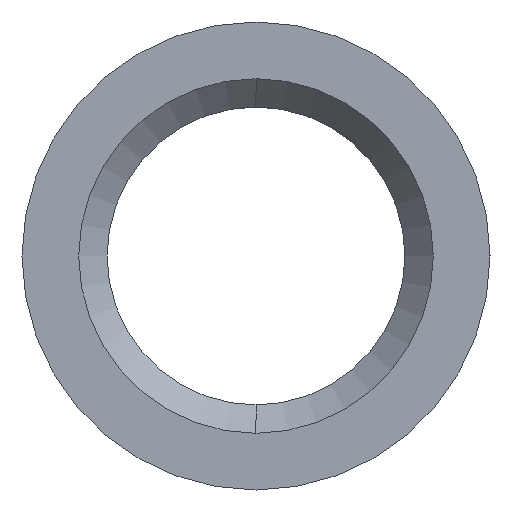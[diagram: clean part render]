
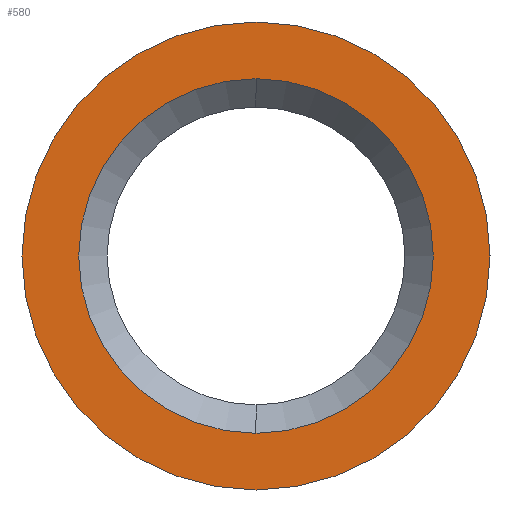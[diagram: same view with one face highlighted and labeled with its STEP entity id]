
A CAD part, left-side view. The second image highlights one B-rep face of the part: STEP entity #580.
In plain terms, the highlighted planar face has unit normal (-1, 0, 0).
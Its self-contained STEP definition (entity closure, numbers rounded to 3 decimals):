
#13 = AXIS2_PLACEMENT_3D ( 'NONE', #830, #101, #741 ) ;
#29 = AXIS2_PLACEMENT_3D ( 'NONE', #492, #417, #68 ) ;
#53 = CARTESIAN_POINT ( 'NONE',  ( -8.3, 0., 0. ) ) ;
#59 = CARTESIAN_POINT ( 'NONE',  ( -8.3, 0., 3.3 ) ) ;
#62 = CARTESIAN_POINT ( 'NONE',  ( -8.3, 0., -3.3 ) ) ;
#65 = DIRECTION ( 'NONE',  ( 1., 0., 0. ) ) ;
#68 = DIRECTION ( 'NONE',  ( 0., 0., 1. ) ) ;
#90 = CIRCLE ( 'NONE', #13, 3.3 ) ;
#101 = DIRECTION ( 'NONE',  ( 1., 0., 0. ) ) ;
#125 = PLANE ( 'NONE',  #29 ) ;
#144 = CIRCLE ( 'NONE', #277, 2.5 ) ;
#175 = CIRCLE ( 'NONE', #647, 2.5 ) ;
#190 = VERTEX_POINT ( 'NONE', #62 ) ;
#193 = AXIS2_PLACEMENT_3D ( 'NONE', #607, #600, #679 ) ;
#201 = ORIENTED_EDGE ( 'NONE', *, *, #467, .F. ) ;
#211 = FACE_OUTER_BOUND ( 'NONE', #762, .T. ) ;
#214 = CARTESIAN_POINT ( 'NONE',  ( -8.3, 0., 0. ) ) ;
#236 = CARTESIAN_POINT ( 'NONE',  ( -8.3, 0., -2.5 ) ) ;
#255 = ORIENTED_EDGE ( 'NONE', *, *, #743, .T. ) ;
#277 = AXIS2_PLACEMENT_3D ( 'NONE', #53, #65, #615 ) ;
#287 = DIRECTION ( 'NONE',  ( 0., 0., 1. ) ) ;
#394 = CARTESIAN_POINT ( 'NONE',  ( -8.3, 0., 2.5 ) ) ;
#417 = DIRECTION ( 'NONE',  ( -1., 0., 0. ) ) ;
#446 = VERTEX_POINT ( 'NONE', #394 ) ;
#463 = EDGE_CURVE ( 'NONE', #190, #700, #90, .T. ) ;
#467 = EDGE_CURVE ( 'NONE', #700, #190, #516, .T. ) ;
#492 = CARTESIAN_POINT ( 'NONE',  ( -8.3, 3.3, 0. ) ) ;
#516 = CIRCLE ( 'NONE', #193, 3.3 ) ;
#580 = ADVANCED_FACE ( 'NONE', ( #626, #211 ), #125, .T. ) ;
#600 = DIRECTION ( 'NONE',  ( 1., 0., 0. ) ) ;
#603 = ORIENTED_EDGE ( 'NONE', *, *, #463, .F. ) ;
#607 = CARTESIAN_POINT ( 'NONE',  ( -8.3, 0., 0. ) ) ;
#615 = DIRECTION ( 'NONE',  ( 0., 0., 1. ) ) ;
#626 = FACE_BOUND ( 'NONE', #732, .T. ) ;
#647 = AXIS2_PLACEMENT_3D ( 'NONE', #214, #781, #287 ) ;
#657 = EDGE_CURVE ( 'NONE', #446, #805, #144, .T. ) ;
#679 = DIRECTION ( 'NONE',  ( 0., 0., -1. ) ) ;
#700 = VERTEX_POINT ( 'NONE', #59 ) ;
#718 = ORIENTED_EDGE ( 'NONE', *, *, #657, .T. ) ;
#732 = EDGE_LOOP ( 'NONE', ( #718, #255 ) ) ;
#741 = DIRECTION ( 'NONE',  ( 0., 0., -1. ) ) ;
#743 = EDGE_CURVE ( 'NONE', #805, #446, #175, .T. ) ;
#762 = EDGE_LOOP ( 'NONE', ( #603, #201 ) ) ;
#781 = DIRECTION ( 'NONE',  ( 1., 0., 0. ) ) ;
#805 = VERTEX_POINT ( 'NONE', #236 ) ;
#830 = CARTESIAN_POINT ( 'NONE',  ( -8.3, 0., 0. ) ) ;
